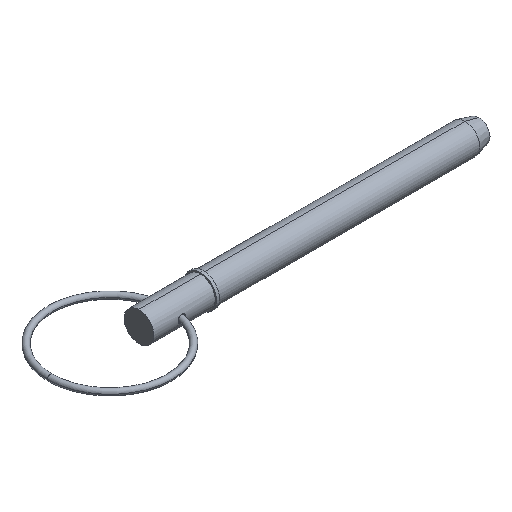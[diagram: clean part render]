
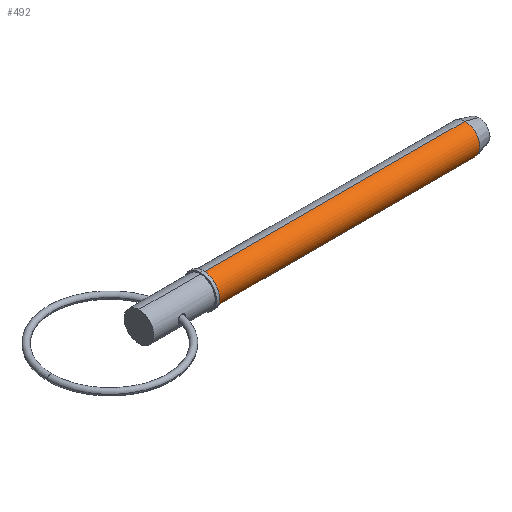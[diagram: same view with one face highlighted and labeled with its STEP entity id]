
A CAD part, isometric view. The second image highlights one B-rep face of the part: STEP entity #492.
In plain terms, the highlighted cylindrical face has radius 5.555 mm (diameter 11.11 mm), a partial arc.
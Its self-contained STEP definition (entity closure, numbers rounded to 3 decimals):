
#47 = CARTESIAN_POINT ( 'NONE',  ( 0., 0., 5.555 ) ) ;
#49 = EDGE_CURVE ( 'NONE', #610, #960, #639, .T. ) ;
#82 = DIRECTION ( 'NONE',  ( 0., 0., -1. ) ) ;
#84 = CYLINDRICAL_SURFACE ( 'NONE', #503, 5.555 ) ;
#155 = VERTEX_POINT ( 'NONE', #255 ) ;
#246 = CARTESIAN_POINT ( 'NONE',  ( 24.13, 0., 0. ) ) ;
#255 = CARTESIAN_POINT ( 'NONE',  ( 24.13, 0., 5.555 ) ) ;
#264 = DIRECTION ( 'NONE',  ( 1., 0., 0. ) ) ;
#296 = DIRECTION ( 'NONE',  ( 1., 0., 0. ) ) ;
#305 = VECTOR ( 'NONE', #296, 1000. ) ;
#355 = EDGE_CURVE ( 'NONE', #155, #739, #1004, .T. ) ;
#386 = EDGE_CURVE ( 'NONE', #739, #960, #434, .T. ) ;
#434 = CIRCLE ( 'NONE', #683, 5.555 ) ;
#449 = CARTESIAN_POINT ( 'NONE',  ( 122.117, 0., 0. ) ) ;
#492 = ADVANCED_FACE ( 'NONE', ( #938 ), #84, .T. ) ;
#503 = AXIS2_PLACEMENT_3D ( 'NONE', #538, #951, #82 ) ;
#507 = VECTOR ( 'NONE', #264, 1000. ) ;
#530 = ORIENTED_EDGE ( 'NONE', *, *, #355, .F. ) ;
#538 = CARTESIAN_POINT ( 'NONE',  ( 0., 0., 0. ) ) ;
#547 = EDGE_CURVE ( 'NONE', #155, #610, #716, .T. ) ;
#567 = CARTESIAN_POINT ( 'NONE',  ( 122.117, 0., 5.555 ) ) ;
#610 = VERTEX_POINT ( 'NONE', #701 ) ;
#639 = LINE ( 'NONE', #722, #507 ) ;
#672 = DIRECTION ( 'NONE',  ( 0., 0., -1. ) ) ;
#683 = AXIS2_PLACEMENT_3D ( 'NONE', #449, #911, #672 ) ;
#701 = CARTESIAN_POINT ( 'NONE',  ( 24.13, 0., -5.555 ) ) ;
#714 = CARTESIAN_POINT ( 'NONE',  ( 122.117, 0., -5.555 ) ) ;
#716 = CIRCLE ( 'NONE', #764, 5.555 ) ;
#722 = CARTESIAN_POINT ( 'NONE',  ( 0., 0., -5.555 ) ) ;
#739 = VERTEX_POINT ( 'NONE', #567 ) ;
#764 = AXIS2_PLACEMENT_3D ( 'NONE', #246, #855, #942 ) ;
#832 = ORIENTED_EDGE ( 'NONE', *, *, #386, .F. ) ;
#855 = DIRECTION ( 'NONE',  ( 1., 0., 0. ) ) ;
#903 = ORIENTED_EDGE ( 'NONE', *, *, #49, .T. ) ;
#911 = DIRECTION ( 'NONE',  ( 1., 0., 0. ) ) ;
#938 = FACE_OUTER_BOUND ( 'NONE', #987, .T. ) ;
#942 = DIRECTION ( 'NONE',  ( 0., 0., -1. ) ) ;
#951 = DIRECTION ( 'NONE',  ( 1., 0., 0. ) ) ;
#960 = VERTEX_POINT ( 'NONE', #714 ) ;
#987 = EDGE_LOOP ( 'NONE', ( #530, #988, #903, #832 ) ) ;
#988 = ORIENTED_EDGE ( 'NONE', *, *, #547, .T. ) ;
#1004 = LINE ( 'NONE', #47, #305 ) ;
